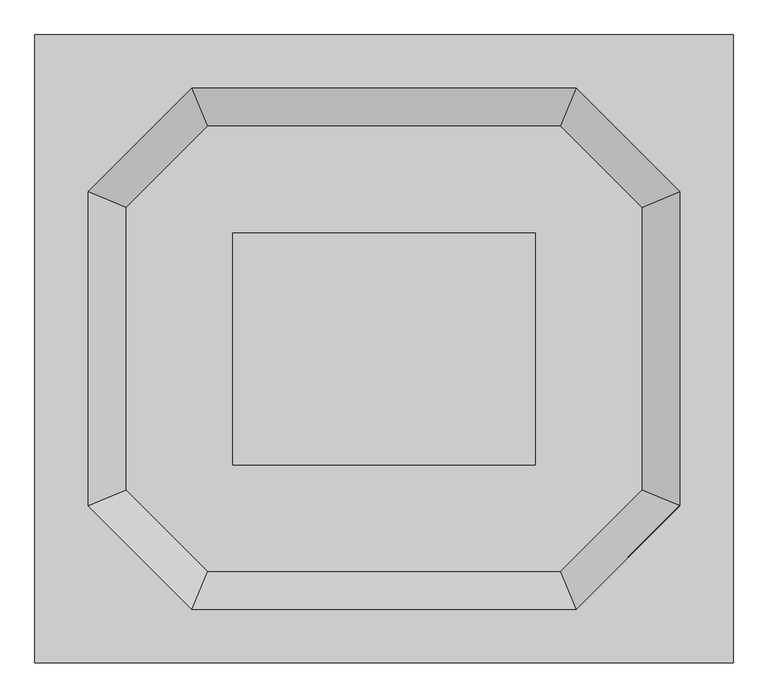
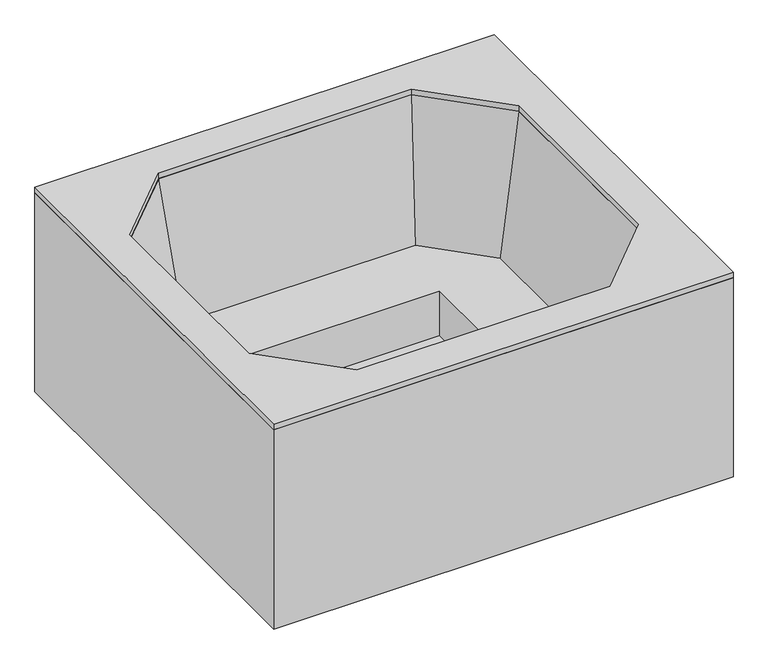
"""IFC4 building model written with IfcOpenShell, lengths in millimetres: flow terminal geometry."""

from ifc_helpers import new_model, si_unit, frame, origin, origin_with_axes, place, context, project, spatial, polyline, outline, extrude, faceted_brep, source, transform, mapped, element, save


def flow_terminal_f4ce068a(model_context):
    return source(origin(), model_context, "Body", "SolidModel", [
        extrude(outline(polyline([(431.6009531, 331.2689168), (431.6009531, -331.2689168), (-431.2689168, -331.2689168), (-431.2689168, 331.2689168), (431.6009531, 331.2689168)])), frame((0.0, 0.0, 75.5267346), z_axis=(0.0, 0.0, 1.0), x_axis=(1.0, 0.0, 0.0)), (0.0, 0.0, 1.0), 25.4),
        extrude(outline(polyline([(736.4009531, 403.5277013), (736.4009531, -403.5277013), (503.8597376, -636.0689168), (-503.8597376, -636.0689168), (-736.0689168, -403.8597376), (-736.0689168, 403.8597376), (-503.8597376, 636.0689168), (503.8597376, 636.0689168), (736.4009531, 403.5277013)]), holes=[polyline([(-431.2689168, 331.2689168), (-431.2689168, -331.2689168), (431.6009531, -331.2689168), (431.6009531, 331.2689168), (-431.2689168, 331.2689168)])]), frame((0.0, 0.0, 100.9267346), z_axis=(0.0, 0.0, 1.0), x_axis=(1.0, 0.0, 0.0)), (0.0, 0.0, 1.0), 203.8732654),
        faceted_brep([(844.425, -448.2727266, 914.4), (736.4009531, -403.5277013, 301.7651865), (503.8597376, -636.0689168, 301.7651865), (548.6047629, -744.0929637, 914.4), (869.825, -458.7937511, 914.4), (559.1257874, -769.4929637, 914.4), (761.8009531, -414.0487258, 301.7651865), (514.3807621, -661.4689168, 301.7651865), (-503.8597376, -636.0689168, 301.7651865), (-548.6047629, -744.0929637, 914.4), (-559.1257874, -769.4929637, 914.4), (-514.3807621, -661.4689168, 301.7651865), (-736.0689168, -403.8597376, 301.7651865), (-844.0929637, -448.6047629, 914.4), (-869.4929637, -459.1257874, 914.4), (-761.4689168, -414.3807621, 301.7651865), (-736.0689168, 403.8597376, 301.7651865), (-844.0929637, 448.6047629, 914.4), (-869.4929637, 459.1257874, 914.4), (-761.4689168, 414.3807621, 301.7651865), (-503.8597376, 636.0689168, 301.7651865), (-548.6047629, 744.0929637, 914.4), (-559.1257874, 769.4929637, 914.4), (-514.3807621, 661.4689168, 301.7651865), (503.8597376, 636.0689168, 301.7651865), (548.6047629, 744.0929637, 914.4), (559.1257874, 769.4929637, 914.4), (514.3807621, 661.4689168, 301.7651865), (736.4009531, 403.5277013, 301.7651865), (844.425, 448.2727266, 914.4), (869.825, 458.7937511, 914.4), (761.8009531, 414.0487258, 301.7651865)], [[[0, 1, 2, 3]], [[4, 0, 3, 5]], [[6, 4, 5, 7]], [[1, 6, 7, 2]], [[3, 2, 8, 9]], [[5, 3, 9, 10]], [[7, 5, 10, 11]], [[2, 7, 11, 8]], [[9, 8, 12, 13]], [[10, 9, 13, 14]], [[11, 10, 14, 15]], [[8, 11, 15, 12]], [[13, 12, 16, 17]], [[14, 13, 17, 18]], [[15, 14, 18, 19]], [[12, 15, 19, 16]], [[17, 16, 20, 21]], [[18, 17, 21, 22]], [[19, 18, 22, 23]], [[16, 19, 23, 20]], [[21, 20, 24, 25]], [[22, 21, 25, 26]], [[23, 22, 26, 27]], [[20, 23, 27, 24]], [[25, 24, 28, 29]], [[26, 25, 29, 30]], [[27, 26, 30, 31]], [[24, 27, 31, 28]], [[29, 28, 1, 0]], [[30, 29, 0, 4]], [[31, 30, 4, 6]], [[28, 31, 6, 1]]]),
        extrude(outline(polyline([(996.825, -896.825), (-996.825, -896.825), (-996.825, 896.825), (996.825, 896.825), (996.825, -896.825)]), holes=[polyline([(548.716252, -744.425), (844.425, -448.716252), (844.425, 448.716252), (548.716252, 744.425), (-548.716252, 744.425), (-844.425, 448.716252), (-844.425, -448.716252), (-548.716252, -744.425), (548.716252, -744.425)])]), frame((0.0, 0.0, 914.4), z_axis=(0.0, 0.0, 1.0), x_axis=(1.0, 0.0, 0.0)), (0.0, 0.0, 1.0), 25.4),
        extrude(outline(polyline([(996.825, -896.825), (-996.825, -896.825), (-996.825, 896.825), (996.825, 896.825), (996.825, -896.825)]), holes=[polyline([(965.075, -865.075), (965.075, 865.075), (-965.075, 865.075), (-965.075, -865.075), (965.075, -865.075)])]), origin_with_axes(), (0.0, 0.0, 1.0), 914.4),
    ])


if __name__ == "__main__":
    model = new_model("IFC4")
    model_context = context("Model", 3, world=origin())
    ifc_project = project(units=[si_unit("LENGTHUNIT", "METRE", prefix="MILLI")], contexts=[model_context])
    site = spatial("IfcSite", under=ifc_project)
    building = spatial("IfcBuilding", under=site)
    placement = place(None, origin())
    flow_terminal_shape = flow_terminal_f4ce068a(model_context)
    element("IfcFlowTerminal", 1, ObjectType="Tub-Jacuzzi : 86\" x 86\" x 37\" ", at=placement, inside=building, context=model_context, shape_type="MappedRepresentation", body=[
        mapped(flow_terminal_shape, transform((0.0, 0.0, 0.0), x_axis=(1.0, 0.0, 0.0), y_axis=(0.0, 1.0, 0.0), z_axis=(0.0, 0.0, 1.0))),
    ])
    save(model, "model.ifc")
